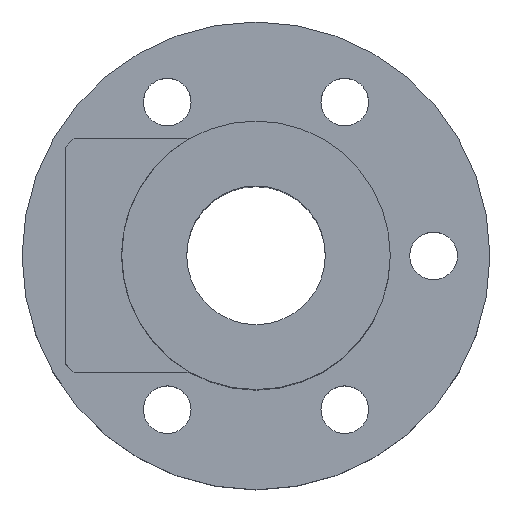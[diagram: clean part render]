
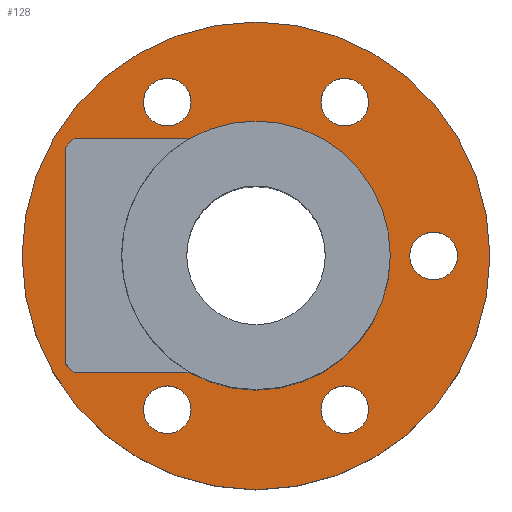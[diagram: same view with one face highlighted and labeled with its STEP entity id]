
A CAD part, top view. The second image highlights one B-rep face of the part: STEP entity #128.
In plain terms, the highlighted planar face has unit normal (0, 0, 1).
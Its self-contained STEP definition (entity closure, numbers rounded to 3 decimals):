
#97=PLANE('',#515);
#112=FACE_OUTER_BOUND('',#251,.T.);
#128=ADVANCED_FACE('',(#203,#204,#205,#112,#206,#207,#208),#97,.T.);
#203=FACE_BOUND('',#248,.T.);
#204=FACE_BOUND('',#249,.T.);
#205=FACE_BOUND('',#250,.T.);
#206=FACE_BOUND('',#252,.T.);
#207=FACE_BOUND('',#253,.T.);
#208=FACE_BOUND('',#254,.T.);
#248=EDGE_LOOP('',(#311));
#249=EDGE_LOOP('',(#312));
#250=EDGE_LOOP('',(#313));
#251=EDGE_LOOP('',(#314));
#252=EDGE_LOOP('',(#315));
#253=EDGE_LOOP('',(#316));
#254=EDGE_LOOP('',(#317));
#311=ORIENTED_EDGE('',*,*,#437,.F.);
#312=ORIENTED_EDGE('',*,*,#438,.F.);
#313=ORIENTED_EDGE('',*,*,#432,.F.);
#314=ORIENTED_EDGE('',*,*,#439,.T.);
#315=ORIENTED_EDGE('',*,*,#440,.F.);
#316=ORIENTED_EDGE('',*,*,#441,.F.);
#317=ORIENTED_EDGE('',*,*,#442,.F.);
#394=VERTEX_POINT('',#694);
#399=VERTEX_POINT('',#705);
#400=VERTEX_POINT('',#707);
#401=VERTEX_POINT('',#709);
#402=VERTEX_POINT('',#711);
#403=VERTEX_POINT('',#713);
#404=VERTEX_POINT('',#715);
#432=EDGE_CURVE('',#394,#394,#476,.T.);
#437=EDGE_CURVE('',#399,#399,#479,.T.);
#438=EDGE_CURVE('',#400,#400,#480,.T.);
#439=EDGE_CURVE('',#401,#401,#481,.T.);
#440=EDGE_CURVE('',#402,#402,#482,.T.);
#441=EDGE_CURVE('',#403,#403,#483,.T.);
#442=EDGE_CURVE('',#404,#404,#484,.T.);
#476=CIRCLE('',#505,15.5);
#479=CIRCLE('',#509,2.75);
#480=CIRCLE('',#510,2.75);
#481=CIRCLE('',#511,27.);
#482=CIRCLE('',#512,2.75);
#483=CIRCLE('',#513,2.75);
#484=CIRCLE('',#514,2.75);
#505=AXIS2_PLACEMENT_3D('',#693,#564,#565);
#509=AXIS2_PLACEMENT_3D('',#704,#574,#575);
#510=AXIS2_PLACEMENT_3D('',#706,#576,#577);
#511=AXIS2_PLACEMENT_3D('',#708,#578,#579);
#512=AXIS2_PLACEMENT_3D('',#710,#580,#581);
#513=AXIS2_PLACEMENT_3D('',#712,#582,#583);
#514=AXIS2_PLACEMENT_3D('',#714,#584,#585);
#515=AXIS2_PLACEMENT_3D('',#716,#586,#587);
#564=DIRECTION('',(0.,0.,1.));
#565=DIRECTION('',(1.,0.,0.));
#574=DIRECTION('',(0.,0.,1.));
#575=DIRECTION('',(-0.5,-0.866,0.));
#576=DIRECTION('',(0.,0.,1.));
#577=DIRECTION('',(0.5,0.866,0.));
#578=DIRECTION('',(0.,0.,1.));
#579=DIRECTION('',(1.,0.,0.));
#580=DIRECTION('',(0.,0.,1.));
#581=DIRECTION('',(1.,0.,0.));
#582=DIRECTION('',(0.,0.,1.));
#583=DIRECTION('',(-1.,0.,0.));
#584=DIRECTION('',(0.,0.,1.));
#585=DIRECTION('',(0.5,-0.866,0.));
#586=DIRECTION('',(0.,0.,1.));
#587=DIRECTION('',(1.,0.,0.));
#693=CARTESIAN_POINT('',(0.,0.,12.));
#694=CARTESIAN_POINT('',(15.5,0.,12.));
#704=CARTESIAN_POINT('',(10.25,-17.754,12.));
#705=CARTESIAN_POINT('',(8.875,-20.135,12.));
#706=CARTESIAN_POINT('',(-10.25,17.754,12.));
#707=CARTESIAN_POINT('',(-8.875,20.135,12.));
#708=CARTESIAN_POINT('',(0.,0.,12.));
#709=CARTESIAN_POINT('',(27.,0.,12.));
#710=CARTESIAN_POINT('',(10.25,17.754,12.));
#711=CARTESIAN_POINT('',(13.,17.754,12.));
#712=CARTESIAN_POINT('',(-10.25,-17.754,12.));
#713=CARTESIAN_POINT('',(-13.,-17.754,12.));
#714=CARTESIAN_POINT('',(20.5,0.,12.));
#715=CARTESIAN_POINT('',(21.875,-2.382,12.));
#716=CARTESIAN_POINT('',(0.,0.,12.));
